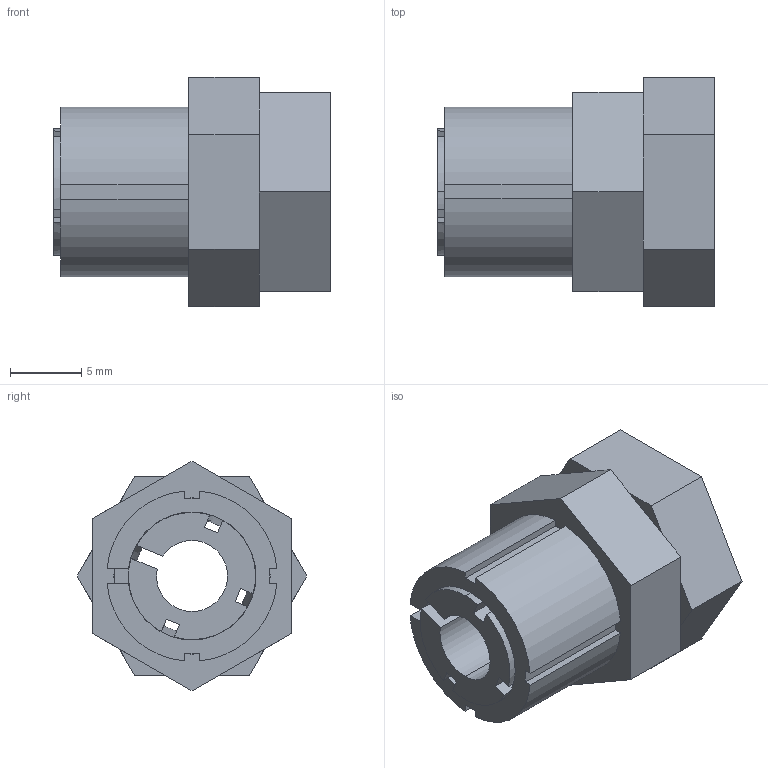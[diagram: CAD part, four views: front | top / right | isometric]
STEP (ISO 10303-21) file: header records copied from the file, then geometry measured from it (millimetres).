
FILE_DESCRIPTION (( 'STEP AP203' ), '1' );
FILE_NAME ('KBS 59 - 5 x 12.STEP', '2015-07-07T21:10:19', ( '' ), ( '' ), 'SwSTEP 2.0', 'SolidWorks 2010', '' );
FILE_SCHEMA (( 'CONFIG_CONTROL_DESIGN' ));
Length unit declared in the file: millimetre
Products named in the file (1): KBS 59 - 5 x 12
Bounding box: 19.5 x 16.17 x 16.17 mm (x, y, z)
Volume: 2156.3 mm3; surface area: 2955.2 mm2
Topology: 3 solids, 3 shells, 78 faces, 204 edges, 132 vertices
Faces by surface type: plane 56, cylinder 14, cone 8
Entity records: 2493 total; most frequent: CARTESIAN_POINT 475, ORIENTED_EDGE 408, DIRECTION 396, EDGE_CURVE 204, LINE 150, VECTOR 150, VERTEX_POINT 132, AXIS2_PLACEMENT_3D 123
